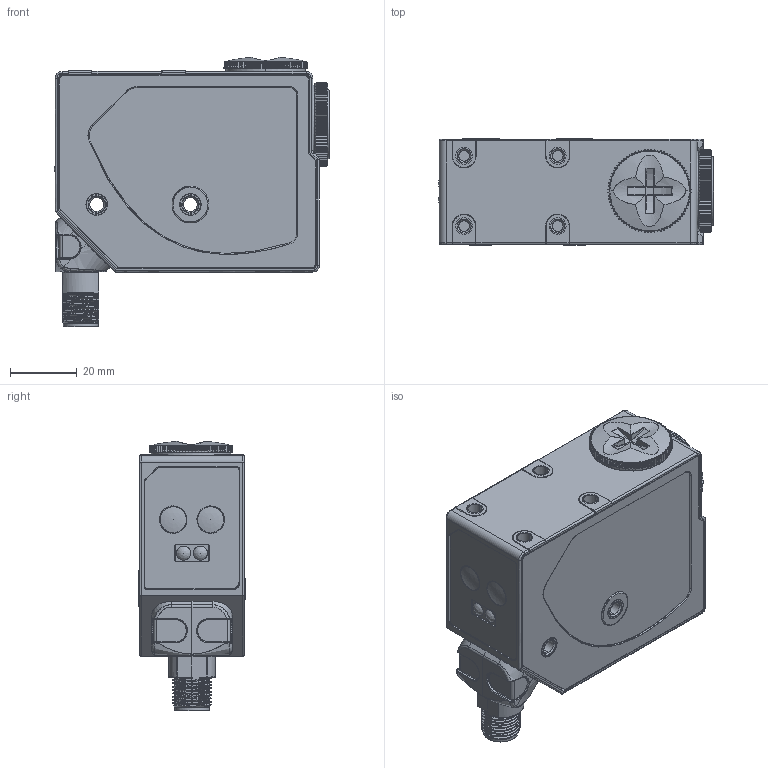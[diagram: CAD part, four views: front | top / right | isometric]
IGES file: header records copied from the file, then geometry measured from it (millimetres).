
Global section: file name: D:\DD\AP003176_00.igs; native system: NX V7.5; preprocessor: SIEMENS PLM Software NX 7.5; date: 20110518.124155; units: millimetre
Bounding box: 82.36 x 31.9 x 80.52 mm (x, y, z)
Surface area: 40675.8 mm2 (no closed solid volume)
Topology: 0 solids, 0 shells, 2033 faces, 12739 edges, 12694 vertices
Faces by surface type: bspline 2033
